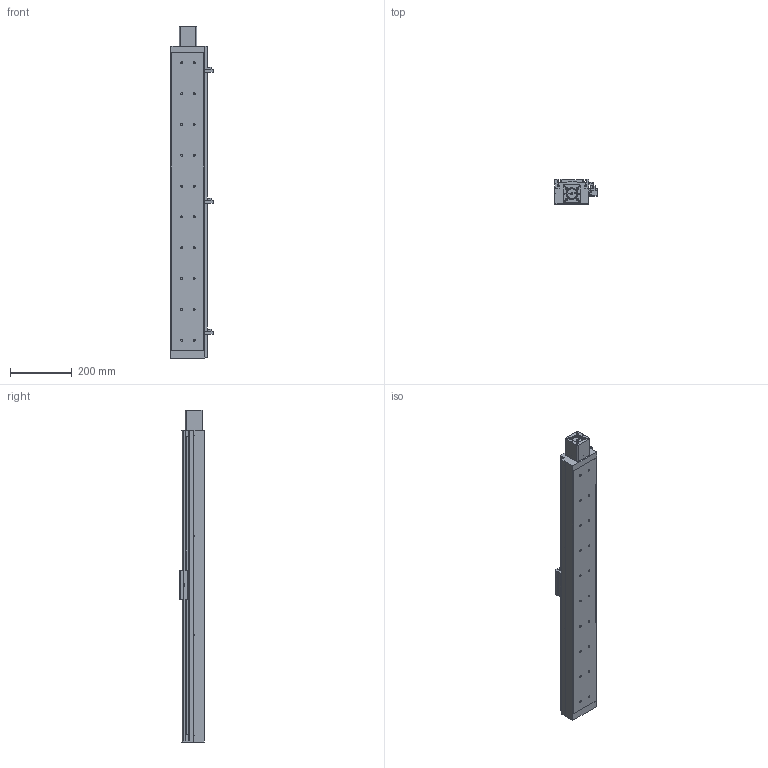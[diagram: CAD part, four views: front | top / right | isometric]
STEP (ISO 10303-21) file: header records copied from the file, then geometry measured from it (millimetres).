
FILE_DESCRIPTION((''),'2;1');
FILE_NAME('E:\libraries\UIA actuator library 2009\standard actuator\UIA110R12(15)DC\UIA110R12(15)DC-ball screw dia.16\UIA110R12(15)DC-_ _ _-R16_ _ step file 20Apr16\UIA110R12(15)DC-850-R16_ _-M23-P13-C10-S.stp','2016-04-20T17:17:45',('h029'),(''),'Autodesk Inventor 11','Autodesk Inventor 11','');
FILE_SCHEMA(('AUTOMOTIVE_DESIGN { 1 0 10303 214 1 1 1 1 }'));
Length unit declared in the file: millimetre
Products named in the file (10): UIA110R12(15)DC-850, ball screw dia.16; body, UIA110R12(15)DC-850,ball screw dia.16; Carriage, UIA110R12(15)DC; Sen Switch, UIA110R12(15)DC; sensor rail, UIA110R12(15)DC-850; SOH-32C; SOH-32C-3; SOH-32C-1; SOH-32C-2; M23 motor mount
Assembly tree (9 placements, depth 3):
  UIA110R12(15)DC-850, ball screw dia.16
    body, UIA110R12(15)DC-850,ball screw dia.16
    Carriage, UIA110R12(15)DC
    Sen Switch, UIA110R12(15)DC
    sensor rail, UIA110R12(15)DC-850
    SOH-32C
      SOH-32C-3
      SOH-32C-1
      SOH-32C-2
    M23 motor mount
Bounding box: 136.5 x 81 x 1077 mm (x, y, z)
Volume: 7671739.8 mm3; surface area: 600998.9 mm2
Topology: 8 solids, 8 shells, 661 faces, 1752 edges, 1149 vertices
Faces by surface type: plane 419, cylinder 140, bspline 83, cone 19
Full cylindrical faces by diameter (mm): 2.459 x4, 3.242 x4, 4 x6, 4.5 x4, 5.5 x3, 6.35 x1, 6.5 x20, 7.5 x4, 8 x2, 9.5 x6, 10 x1, 10.5 x20, 21 x1, 32 x3, 37 x1, 38.1 x1, 42 x1, 42.01 x1, 43.5 x1
Entity records: 20900 total; most frequent: CARTESIAN_POINT 5235, DIRECTION 3159, ORIENTED_EDGE 3002, EDGE_CURVE 1501, AXIS2_PLACEMENT_3D 1078, VERTEX_POINT 1072, VECTOR 1003, LINE 1003
